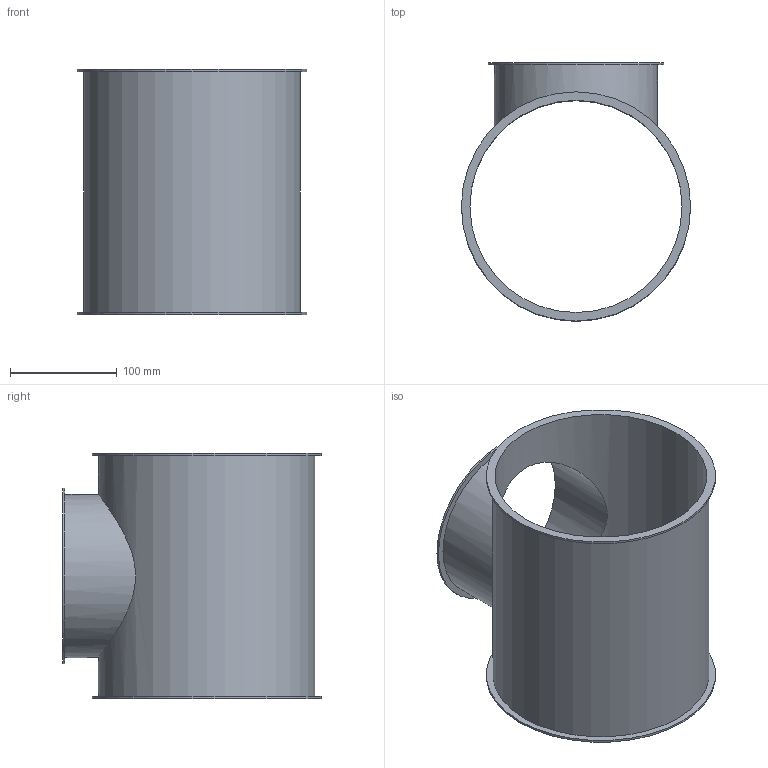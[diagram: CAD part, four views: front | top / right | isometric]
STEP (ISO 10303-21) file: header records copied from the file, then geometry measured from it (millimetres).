
FILE_DESCRIPTION((''),'2;1');
FILE_NAME('U:\Wolfgang\Marcel-3D\fertig\Kapitel 4\2021039.stp','2011-04-21T08:26:04',('TK1'),(''),'Autodesk Inventor 2010','Autodesk Inventor 2010','');
FILE_SCHEMA(('AUTOMOTIVE_DESIGN { 1 0 10303 214 1 1 1 1 }'));
Length unit declared in the file: millimetre
Products named in the file (1): 2021039
Bounding box: 215 x 242.5 x 230 mm (x, y, z)
Volume: 318893.9 mm3; surface area: 324954.3 mm2
Topology: 1 solids, 1 shells, 13 faces, 23 edges, 16 vertices
Faces by surface type: cylinder 7, plane 6
Full cylindrical faces by diameter (mm): 149 x1, 153 x1, 165 x1, 199 x1, 203 x1, 215 x2
Entity records: 432 total; most frequent: CARTESIAN_POINT 172, DIRECTION 52, ORIENTED_EDGE 28, EDGE_LOOP 28, AXIS2_PLACEMENT_3D 26, FACE_BOUND 15, VERTEX_POINT 14, EDGE_CURVE 14
